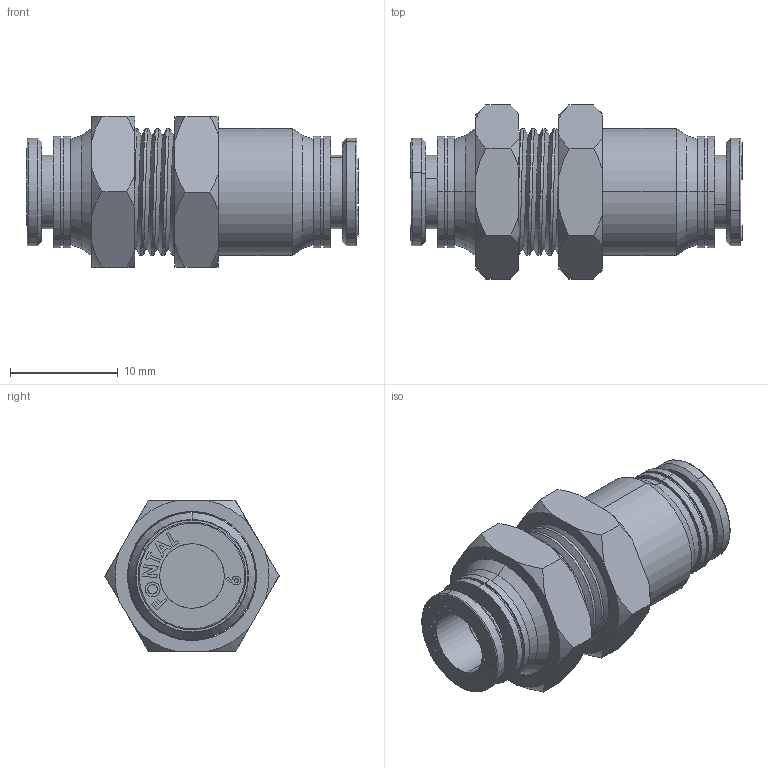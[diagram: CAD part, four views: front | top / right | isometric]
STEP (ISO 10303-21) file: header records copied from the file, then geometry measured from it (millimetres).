
FILE_DESCRIPTION (( 'STEP AP203' ), '1' );
FILE_NAME ('FPM6.STEP', '2016-01-14T21:13:52', ( '' ), ( '' ), 'SwSTEP 2.0', 'SolidWorks 2014', '' );
FILE_SCHEMA (( 'CONFIG_CONTROL_DESIGN' ));
Length unit declared in the file: millimetre
Products named in the file (4): FPM6-B; FPC6-M5-A; FPM6; FPM6-A
Assembly tree (5 placements, depth 2):
  FPM6
    FPM6-A
    FPC6-M5-A  x2
    FPM6-B  x2
Bounding box: 30.84 x 16.17 x 14.04 mm (x, y, z)
Volume: 2712.2 mm3; surface area: 3082.8 mm2
Topology: 5 solids, 5 shells, 284 faces, 707 edges, 466 vertices
Faces by surface type: plane 153, cylinder 53, bspline 38, cone 36, torus 4
Entity records: 7768 total; most frequent: CARTESIAN_POINT 3372, ORIENTED_EDGE 852, DIRECTION 746, EDGE_CURVE 426, VERTEX_POINT 280, AXIS2_PLACEMENT_3D 255, VECTOR 236, LINE 236
